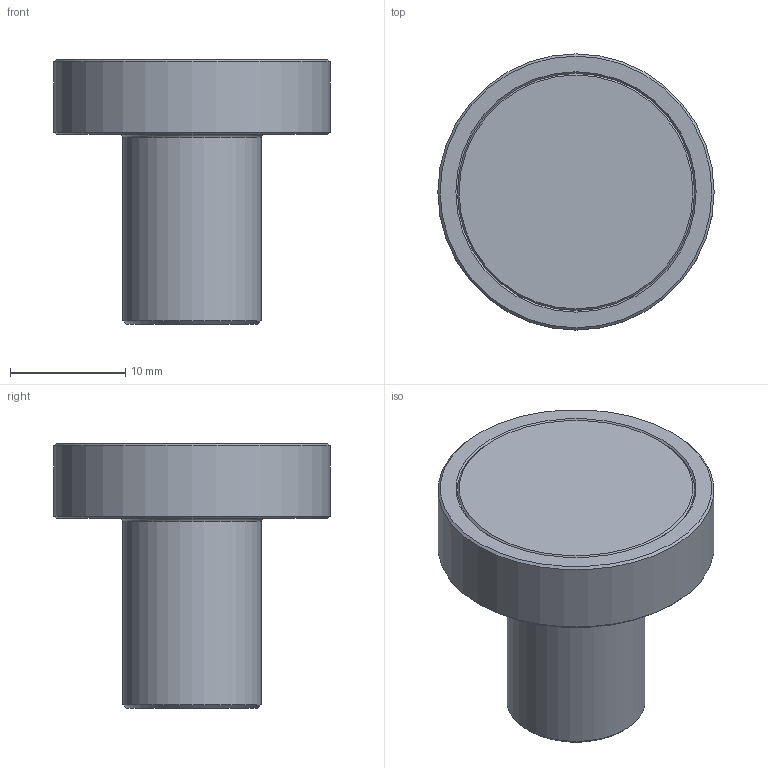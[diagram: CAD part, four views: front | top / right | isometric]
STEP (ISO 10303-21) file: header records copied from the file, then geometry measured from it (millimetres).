
FILE_DESCRIPTION(('Open CASCADE Model'),'2;1');
FILE_NAME('FL-DOT-knob-24','2026-10-19T21:24:16',('Author'),( 'Open CASCADE'),'Open CASCADE STEP processor 8.0','build123d', 'Unknown');
FILE_SCHEMA(('AUTOMOTIVE_DESIGN { 1 0 10303 214 1 1 1 1 }'));
Length unit declared in the file: millimetre
Products named in the file (2): FL-DOT-knob-24; brass_FL-DOT24__k
Assembly tree (1 placements, depth 2):
  FL-DOT-knob-24
    brass_FL-DOT24__k
Bounding box: 24 x 24 x 23 mm (x, y, z)
Volume: 4691.4 mm3; surface area: 2118.8 mm2
Topology: 1 solids, 1 shells, 16 faces, 25 edges, 15 vertices
Faces by surface type: plane 6, cone 5, cylinder 4, torus 1
Full cylindrical faces by diameter (mm): 3.3 x1, 5.1 x1, 12 x1, 24 x1
Entity records: 713 total; most frequent: CARTESIAN_POINT 122, DIRECTION 118, ORIENTED_EDGE 50, PCURVE 50, DEFINITIONAL_REPRESENTATION 50, LINE 41, VECTOR 41, AXIS2_PLACEMENT_3D 34
